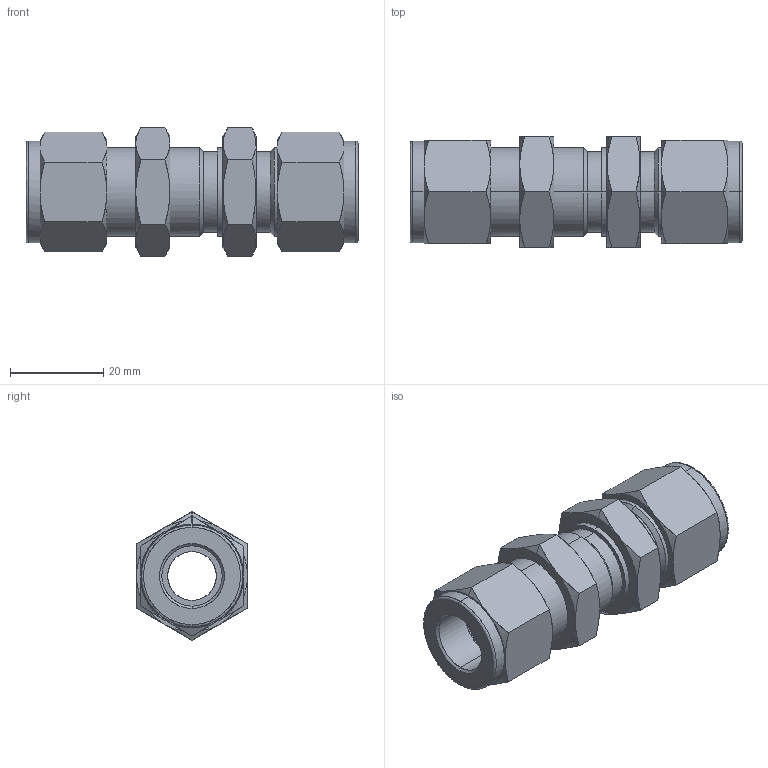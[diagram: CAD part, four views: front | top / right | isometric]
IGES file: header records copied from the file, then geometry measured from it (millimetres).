
Start section: Comment
Global section: file name: SBHU-8.igs; native system:  By UGS Corp.; preprocessor: XPlus GENERIC/IGES 3.0; author: Author; organization: Title; date: 20100528.112410; units: millimetre
Bounding box: 71.12 x 23.81 x 27.5 mm (x, y, z)
Surface area: 12724.7 mm2 (no closed solid volume)
Topology: 0 solids, 0 shells, 143 faces, 628 edges, 628 vertices
Faces by surface type: bspline 143
